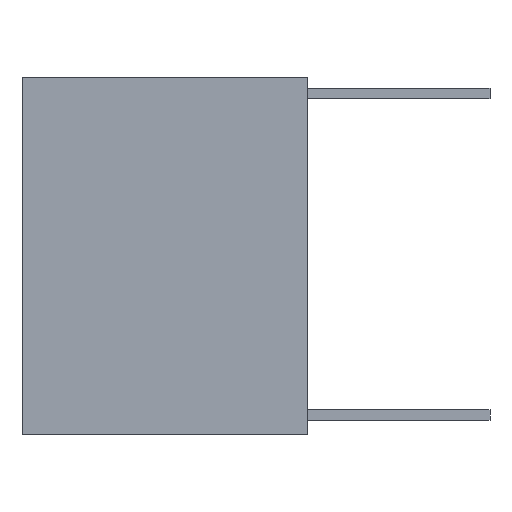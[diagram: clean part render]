
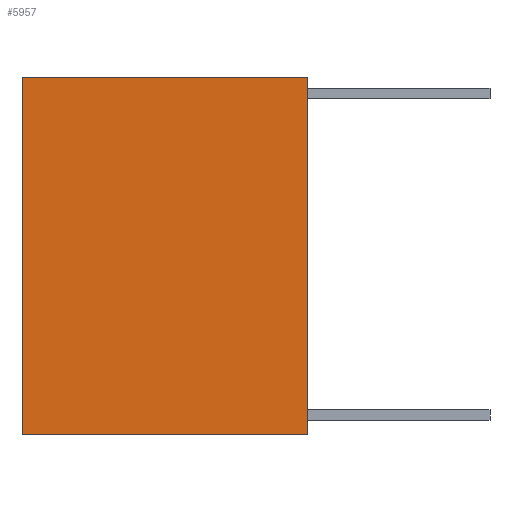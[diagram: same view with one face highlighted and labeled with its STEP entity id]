
A CAD part, left-side view. The second image highlights one B-rep face of the part: STEP entity #5957.
In plain terms, the highlighted planar face has unit normal (-1, 0, 0).
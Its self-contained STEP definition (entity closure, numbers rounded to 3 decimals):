
#42=DIRECTION('',(0.,-1.,0.));
#43=VECTOR('',#42,4.);
#44=CARTESIAN_POINT('',(-3.1,2.,-2.5));
#45=LINE('',#44,#43);
#194=DIRECTION('',(0.,0.,1.));
#195=VECTOR('',#194,5.);
#196=CARTESIAN_POINT('',(-3.1,-2.,-2.5));
#197=LINE('',#196,#195);
#699=DIRECTION('',(0.,-1.,0.));
#700=VECTOR('',#699,4.);
#701=CARTESIAN_POINT('',(-3.1,2.,2.5));
#702=LINE('',#701,#700);
#719=DIRECTION('',(0.,0.,1.));
#720=VECTOR('',#719,5.);
#721=CARTESIAN_POINT('',(-3.1,2.,-2.5));
#722=LINE('',#721,#720);
#3927=CARTESIAN_POINT('',(-3.1,2.,-2.5));
#3928=CARTESIAN_POINT('',(-3.1,-2.,-2.5));
#3929=VERTEX_POINT('',#3927);
#3930=VERTEX_POINT('',#3928);
#3931=CARTESIAN_POINT('',(-3.1,2.,2.5));
#3932=CARTESIAN_POINT('',(-3.1,-2.,2.5));
#3933=VERTEX_POINT('',#3931);
#3934=VERTEX_POINT('',#3932);
#5946=CARTESIAN_POINT('',(-3.1,2.,-2.5));
#5947=DIRECTION('',(-1.,0.,0.));
#5948=DIRECTION('',(0.,-1.,0.));
#5949=AXIS2_PLACEMENT_3D('',#5946,#5947,#5948);
#5950=PLANE('',#5949);
#5951=ORIENTED_EDGE('',*,*,#5156,.F.);
#5952=ORIENTED_EDGE('',*,*,#5927,.T.);
#5953=ORIENTED_EDGE('',*,*,#5899,.T.);
#5954=ORIENTED_EDGE('',*,*,#5281,.F.);
#5955=EDGE_LOOP('',(#5951,#5952,#5953,#5954));
#5956=FACE_OUTER_BOUND('',#5955,.F.);
#5957=ADVANCED_FACE('',(#5956),#5950,.T.);
#5156=EDGE_CURVE('',#3929,#3930,#45,.T.);
#5281=EDGE_CURVE('',#3930,#3934,#197,.T.);
#5899=EDGE_CURVE('',#3933,#3934,#702,.T.);
#5927=EDGE_CURVE('',#3929,#3933,#722,.T.);
